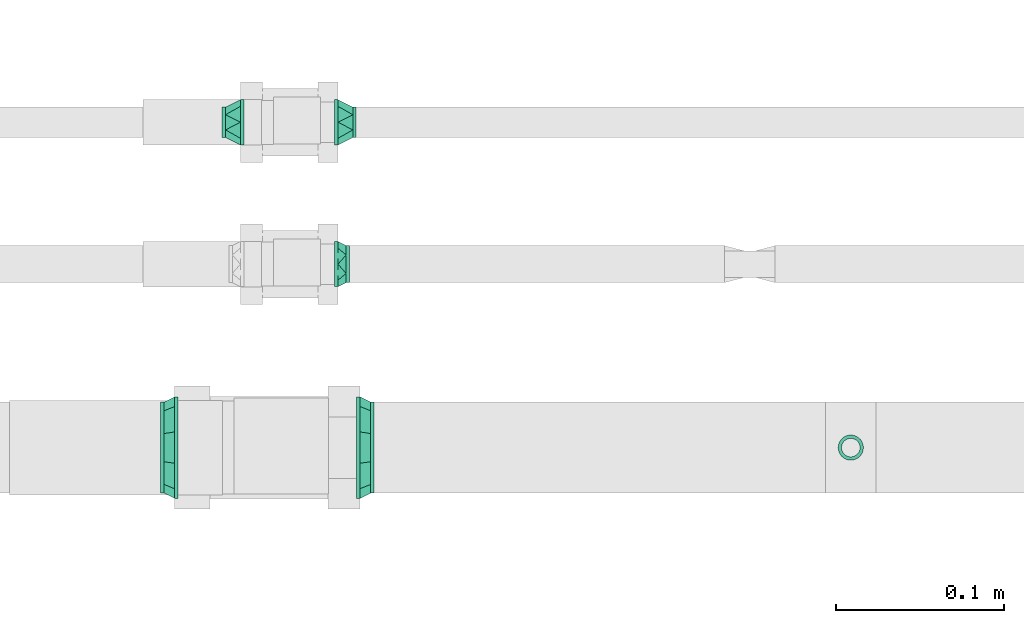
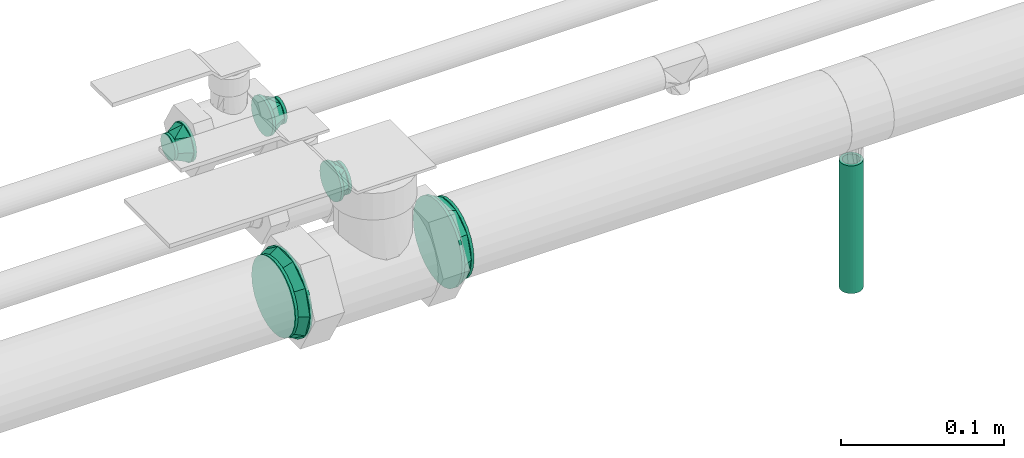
# One storey, part 95 of 156: 5 flow fittings, 1 flow segment.
"""IFC2X3 building model written with IfcOpenShell, lengths in millimetres."""

import ifcopenshell
import ifcopenshell.guid

model = None  # the IFC model being written
_history = None  # IfcOwnerHistory: only IFC2X3 demands one
_inside = {}  # id of a spatial element -> (the spatial element, [elements in it])
_under = {}  # id of a project, library or spatial element -> (it, [spatial elements below it])
_declared = {}  # id of a project -> (the project, [libraries it declares])
_typed = {}  # id of a type object -> (the type object, [elements of that type])
_made_of = {}  # id of a material, layer set ... -> (it, [elements and type objects made of it])


def new_model(schema):
    """Start an empty IFC model of exactly this schema.

    Asked for "IFC4X3", IfcOpenShell would pick the latest addendum, in which some entities
    have other attributes; the version numbers below select the first issue.
    IFC2X3 requires an IfcOwnerHistory on every rooted entity: one is made here for all.
    """
    global model, _history
    if schema == "IFC4X3":
        model = ifcopenshell.file(schema_version=(4, 3, 0, 0))
    else:
        model = ifcopenshell.file(schema=schema)
    _inside.clear()
    _under.clear()
    _declared.clear()
    _typed.clear()
    _made_of.clear()
    _history = None
    if model.schema == "IFC2X3":
        org = make("IfcOrganization", Name="unknown")
        user = make(
            "IfcPersonAndOrganization",
            ThePerson=make("IfcPerson", FamilyName="unknown"),
            TheOrganization=org,
        )
        app = make(
            "IfcApplication",
            ApplicationDeveloper=org,
            Version="unknown",
            ApplicationFullName="unknown",
            ApplicationIdentifier="unknown",
        )
        _history = make(
            "IfcOwnerHistory",
            OwningUser=user,
            OwningApplication=app,
            ChangeAction="ADDED",
            CreationDate=0,
        )
    return model


def make(cls, **values):
    """One entity of the class cls with the attributes given. An attribute that is None is left unset."""
    return model.create_entity(
        cls, **{name: value for name, value in values.items() if value is not None}
    )


def entity(cls, *values):
    """Any entity or typed value of the class cls, its attributes in the order of the schema. None: left unset."""
    e = model.create_entity(cls)
    for i, value in enumerate(values):
        if value is not None:
            e[i] = value
    return e


def rooted(cls, **values):
    """An entity with a GlobalId (a new one), such as an element, a storey or a relation."""
    return make(cls, GlobalId=ifcopenshell.guid.new(), OwnerHistory=_history, **values)


def si_unit(unit_type, name, prefix=None):
    """IfcSIUnit, for example si_unit("LENGTHUNIT", "METRE", prefix="MILLI")."""
    return make("IfcSIUnit", UnitType=unit_type, Prefix=prefix, Name=name)


def converted_unit(unit_type, name, factor, base, dimensions=None, offset=None):
    """IfcConversionBasedUnit, such as the inch: factor (a typed value) times the base unit."""
    return make(
        "IfcConversionBasedUnit"
        if offset is None
        else "IfcConversionBasedUnitWithOffset",
        ConversionOffset=offset,
        Dimensions=None
        if dimensions is None
        else entity("IfcDimensionalExponents", *dimensions),
        UnitType=unit_type,
        Name=name,
        ConversionFactor=make(
            "IfcMeasureWithUnit", ValueComponent=factor, UnitComponent=base
        ),
    )


def derived_unit(unit_type, elements):
    """IfcDerivedUnit: a product of units, each with its exponent."""
    return make(
        "IfcDerivedUnit",
        Elements=[
            make("IfcDerivedUnitElement", Unit=unit, Exponent=power)
            for unit, power in elements
        ],
        UnitType=unit_type,
    )


def assignment(units):
    """IfcUnitAssignment: the units of a project."""
    return None if units is None else make("IfcUnitAssignment", Units=units)


def point(xyz):
    """IfcCartesianPoint."""
    return None if xyz is None else make("IfcCartesianPoint", Coordinates=xyz)


def direction(xyz):
    """IfcDirection."""
    return None if xyz is None else make("IfcDirection", DirectionRatios=xyz)


def frame(location, z_axis=None, x_axis=None):
    """IfcAxis2Placement3D, a coordinate frame: its origin and axes. An axis left out is left unset."""
    return make(
        "IfcAxis2Placement3D",
        Location=point(location),
        Axis=direction(z_axis),
        RefDirection=direction(x_axis),
    )


def frame_2d(location, x_axis=None):
    """IfcAxis2Placement2D, a coordinate frame in the plane: its origin and x axis."""
    return make(
        "IfcAxis2Placement2D", Location=point(location), RefDirection=direction(x_axis)
    )


def origin_with_axes():
    """The frame at (0, 0, 0) with the z axis (0, 0, 1) and the x axis (1, 0, 0) written out."""
    return frame((0.0, 0.0, 0.0), z_axis=(0.0, 0.0, 1.0), x_axis=(1.0, 0.0, 0.0))


def origin_2d_with_axis():
    """The frame at (0, 0) in the plane with the x axis (1, 0) written out."""
    return frame_2d((0.0, 0.0), x_axis=(1.0, 0.0))


def place(relative_to, where):
    """IfcLocalPlacement: puts the frame where relative to a parent placement (None: the world)."""
    return make(
        "IfcLocalPlacement", PlacementRelTo=relative_to, RelativePlacement=where
    )


def context(
    kind, dimensions, precision=None, world=None, true_north=None, identifier=None
):
    """IfcGeometricRepresentationContext, for example the 3D "Model" context."""
    return make(
        "IfcGeometricRepresentationContext",
        ContextIdentifier=identifier,
        ContextType=kind,
        CoordinateSpaceDimension=dimensions,
        Precision=precision,
        WorldCoordinateSystem=world,
        TrueNorth=true_north,
    )


def subcontext(parent, identifier, kind, view, scale=None):
    """IfcGeometricRepresentationSubContext, for example "Body" below "Model"."""
    return make(
        "IfcGeometricRepresentationSubContext",
        ContextIdentifier=identifier,
        ContextType=kind,
        ParentContext=parent,
        TargetScale=scale,
        TargetView=view,
    )


def project(units=None, contexts=None):
    """IfcProject with its units and contexts."""
    return rooted(
        "IfcProject",
        Name="project",
        RepresentationContexts=contexts,
        UnitsInContext=assignment(units),
    )


def spatial(cls, under=None, at=None, **own):
    """A site, building, storey or space (cls), placed at a placement, below another one or the project."""
    s = rooted(cls, ObjectPlacement=at, **own)
    if under is not None:
        _under.setdefault(under.id(), (under, []))[1].append(s)
    return s


def profile(cls, at=None, kind="AREA", **sizes):
    """A parametric profile (cls). Its sizes go by their IFC names, for example OverallWidth=200.0."""
    return make(cls, ProfileType=kind, Position=at, **sizes)


def hollow_circle(**sizes):
    """IfcCircleHollowProfileDef."""
    return profile("IfcCircleHollowProfileDef", **sizes)


def extrude(swept, where, along, depth):
    """IfcExtrudedAreaSolid: the profile swept, set in the frame where, extruded along a direction by depth."""
    return make(
        "IfcExtrudedAreaSolid",
        SweptArea=swept,
        Position=where,
        ExtrudedDirection=direction(along),
        Depth=depth,
    )


def faces_of(points, faces, orient=None, outer=None):
    """IfcFace entities. A face is a list of loops; a loop is a list of indices into points, from 0.

    orient and outer hold one flag for each loop. By default every Orientation is true, the
    first loop of a face is its IfcFaceOuterBound and the others are IfcFaceBound.
    """
    made = []
    for i, loops in enumerate(faces):
        bounds = []
        for j, loop in enumerate(loops):
            is_outer = j == 0 if outer is None else outer[i][j]
            bounds.append(
                make(
                    "IfcFaceOuterBound" if is_outer else "IfcFaceBound",
                    Bound=make("IfcPolyLoop", Polygon=[points[k] for k in loop]),
                    Orientation=True if orient is None else orient[i][j],
                )
            )
        made.append(make("IfcFace", Bounds=bounds))
    return made


def open_shell(faces, orient=None, outer=None):
    """The faces of one IfcOpenShell. surface_model builds it on its shared points."""
    return ("IfcOpenShell", faces, orient, outer)


def surface_model(cls, points, shells):
    """IfcFaceBasedSurfaceModel or IfcShellBasedSurfaceModel (cls): surfaces that need not close."""
    shared = [point(p) for p in points]
    made = [make(c, CfsFaces=faces_of(shared, fs, o, b)) for c, fs, o, b in shells]
    if cls == "IfcFaceBasedSurfaceModel":
        return make(cls, FbsmFaces=made)
    return make(cls, SbsmBoundary=made)


def shape(context_of_items, identifier, shape_type, items):
    """IfcShapeRepresentation: the items that make up one representation, for example the "Body"."""
    return make(
        "IfcShapeRepresentation",
        ContextOfItems=context_of_items,
        RepresentationIdentifier=identifier,
        RepresentationType=shape_type,
        Items=items,
    )


def source(mapping_origin, context_of_items, identifier, shape_type, items):
    """IfcRepresentationMap: a shape defined once, which mapped items show again and again."""
    return make(
        "IfcRepresentationMap",
        MappingOrigin=mapping_origin,
        MappedRepresentation=shape(context_of_items, identifier, shape_type, items),
    )


def transform(
    local_origin,
    x_axis=None,
    y_axis=None,
    z_axis=None,
    scale=None,
    scale2=None,
    scale3=None,
    uniform=True,
):
    """IfcCartesianTransformationOperator3D, or its non-uniform kind. x_axis, y_axis, z_axis: its Axis1, 2, 3."""
    if uniform:
        return make(
            "IfcCartesianTransformationOperator3D",
            Axis1=direction(x_axis),
            Axis2=direction(y_axis),
            LocalOrigin=point(local_origin),
            Scale=scale,
            Axis3=direction(z_axis),
        )
    return make(
        "IfcCartesianTransformationOperator3DnonUniform",
        Axis1=direction(x_axis),
        Axis2=direction(y_axis),
        LocalOrigin=point(local_origin),
        Scale=scale,
        Axis3=direction(z_axis),
        Scale2=scale2,
        Scale3=scale3,
    )


def mapped(mapping_source, mapping_target):
    """IfcMappedItem: shows the shape of a source again, moved by a transform."""
    return make(
        "IfcMappedItem", MappingSource=mapping_source, MappingTarget=mapping_target
    )


def made_of(thing, what):
    """Note that an element or type object is made of a material, layer set ...; save() writes the relation."""
    if what is not None:
        _made_of.setdefault(what.id(), (what, []))[1].append(thing)
    return thing


def type_object(cls, material=None, **own):
    """A type object (cls), such as IfcWallType, which elements share."""
    return made_of(rooted(cls, **own), material)


def element(
    cls,
    number,
    at=None,
    inside=None,
    cuts=None,
    type_object=None,
    material=None,
    context=None,
    identifier="Body",
    shape_type=None,
    held_by="IfcProductDefinitionShape",
    body=None,
    shapes=None,
    **own,
):
    """One element of the class cls, such as IfcWall. Its Tag is "e" and its number.

    at: its placement. inside: the storey or other place that contains it. cuts: it is an
    opening in that element (IfcRelVoidsElement). A single representation is given by context,
    identifier, shape_type and body (its items); several are given by shapes. held_by: the class
    of the entity that holds the representations. save() writes the other relations.
    """
    e = rooted(cls, Tag="e%d" % number, ObjectPlacement=at, **own)
    if body is not None:
        shapes = [shape(context, identifier, shape_type, body)]
    if shapes is not None:
        e.Representation = make(held_by, Representations=shapes)
    if inside is not None:
        _inside.setdefault(inside.id(), (inside, []))[1].append(e)
    if cuts is not None:
        rooted(
            "IfcRelVoidsElement", RelatingBuildingElement=cuts, RelatedOpeningElement=e
        )
    if type_object is not None:
        _typed.setdefault(type_object.id(), (type_object, []))[1].append(e)
    return made_of(e, material)


def aggregate(whole, parts):
    """IfcRelAggregates: a whole, such as a stair, and the parts it consists of."""
    return rooted("IfcRelAggregates", RelatingObject=whole, RelatedObjects=parts)


def save(model, path):
    """Write the relations noted so far, then the file.

    IfcRelAggregates (storeys below a building ...), IfcRelContainedInSpatialStructure (elements
    in a storey), IfcRelDefinesByType, IfcRelAssociatesMaterial and IfcRelDeclares: one each for
    every whole, place, type object, material and project.
    """
    for whole, parts in _under.values():
        aggregate(whole, parts)
    for where, things in _inside.values():
        rooted(
            "IfcRelContainedInSpatialStructure",
            RelatedElements=things,
            RelatingStructure=where,
        )
    for kind, things in _typed.values():
        rooted("IfcRelDefinesByType", RelatedObjects=things, RelatingType=kind)
    for what, things in _made_of.values():
        rooted("IfcRelAssociatesMaterial", RelatedObjects=things, RelatingMaterial=what)
    for by, libraries in _declared.values():
        rooted("IfcRelDeclares", RelatingContext=by, RelatedDefinitions=libraries)
    model.write(path)


model = new_model("IFC2X3")

# Units and contexts
model_context = context("Model", 3, precision=0.01, world=frame((0.0, 4.29681676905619e-09, 0.0)), true_north=direction((4.01073788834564e-13, 1.0)))
plan_context = context("Plan", 3, precision=0.01, world=frame((0.0, 4.29681676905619e-09, 0.0)), true_north=direction((4.01073788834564e-13, 1.0)))
body_context = subcontext(model_context, "Body", "Model", "MODEL_VIEW")
ifc_project = project(units=[converted_unit("PLANEANGLEUNIT", "DEGREE", entity("IfcPositiveLengthMeasure", 0.0174532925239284), si_unit("PLANEANGLEUNIT", "RADIAN"), dimensions=[0, 0, 0, 0, 0, 0, 0]), si_unit("AREAUNIT", "SQUARE_METRE"), si_unit("LENGTHUNIT", "METRE", prefix="MILLI"), si_unit("MASSUNIT", "GRAM", prefix="KILO"), si_unit("POWERUNIT", "WATT"), si_unit("PRESSUREUNIT", "PASCAL", prefix="KILO"), si_unit("FORCEUNIT", "NEWTON", prefix="KILO"), si_unit("ELECTRICVOLTAGEUNIT", "VOLT"), si_unit("ELECTRICCURRENTUNIT", "AMPERE"), si_unit("THERMODYNAMICTEMPERATUREUNIT", "DEGREE_CELSIUS"), si_unit("TIMEUNIT", "SECOND"), si_unit("VOLUMEUNIT", "CUBIC_METRE"), derived_unit("LINEARVELOCITYUNIT", [(si_unit("LENGTHUNIT", "METRE"), 1), (si_unit("TIMEUNIT", "SECOND"), -1)]), derived_unit("VOLUMETRICFLOWRATEUNIT", [(si_unit("VOLUMEUNIT", "CUBIC_METRE"), 1), (si_unit("TIMEUNIT", "SECOND"), -1)]), derived_unit("THERMALTRANSMITTANCEUNIT", [(si_unit("POWERUNIT", "WATT"), 1), (si_unit("THERMODYNAMICTEMPERATUREUNIT", "KELVIN"), -1), (si_unit("AREAUNIT", "SQUARE_METRE"), -1)]), derived_unit("SOUNDPRESSUREUNIT", [(si_unit("PRESSUREUNIT", "PASCAL"), 1)])], contexts=[model_context, plan_context])

# Site, building, storey
site_placement = place(None, frame((0.0, -4.29681676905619e-09, 0.0), z_axis=(0.0, 0.0, 1.0), x_axis=(1.0, 0.0, 0.0)))
site = spatial("IfcSite", under=ifc_project, at=site_placement, CompositionType="ELEMENT")
building_placement = place(site_placement, frame((0.0, 4.29681676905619e-09, 0.0), z_axis=(0.0, 0.0, 1.0), x_axis=(1.0, 0.0, 0.0)))
building = spatial("IfcBuilding", under=site, at=building_placement, Name="mc-building", CompositionType="ELEMENT")
storey_placement = place(building_placement, frame((0.0, 0.0, 205200.0), z_axis=(0.0, 0.0, 1.0), x_axis=(1.0, 0.0, 0.0)))
storey = spatial("IfcBuildingStorey", under=building, at=storey_placement, Name="Nivå D + 1,2 m", CompositionType="ELEMENT", Elevation=205200.0)

# Flow fittings
pipe_fitting_type = type_object("IfcPipeFittingType", Name="magi_pipe_fe_reducer_centric_short_001", PredefinedType="TRANSITION")
shared_shape_1 = source(origin_with_axes(), body_context, "Body", "SurfaceModel", [
    surface_model("IfcShellBasedSurfaceModel", [(-2.0, 9.47523, 9.47523), (-2.0, 11.60474, 6.7), (-2.0, 12.94341, 3.46818), (-2.0, -3.46818, 12.94341), (-2.0, -9.47523, 9.47523), (-2.0, -6.7, 11.60474), (-2.0, -12.94341, 3.46818), (-2.0, -11.60474, 6.7), (-2.0, -12.94341, -3.46818), (-2.0, -9.47523, -9.47523), (-2.0, -11.60474, -6.7), (0.0, 11.60474, -6.7), (0.0, 6.7, -11.60474), (0.0, 9.47523, -9.47523), (0.0, -9.47523, -9.47523), (0.0, -12.94341, -3.46818), (0.0, -11.60474, -6.7), (0.0, 12.94341, 3.46818), (0.0, 11.60474, 6.7), (0.0, 9.47523, 9.47523), (0.0, 0.0, 13.4), (0.0, -9.47523, 9.47523), (0.0, -3.46818, 12.94341), (0.0, -6.7, 11.60474), (-2.0, -13.4, 0.0), (0.0, -6.7, -11.60474), (-2.0, -6.7, -11.60474), (0.0, -3.46818, -12.94341), (-2.0, -3.46818, -12.94341), (0.0, -13.4, 0.0), (0.0, 0.0, -13.4), (-2.0, 0.0, -13.4), (-2.0, 3.46818, -12.94341), (0.0, 3.46818, -12.94341), (-2.0, 6.7, -11.60474), (-2.0, 9.47523, -9.47523), (-2.0, 11.60474, -6.7), (0.0, 12.94341, -3.46818), (-2.0, 12.94341, -3.46818), (0.0, 13.4, 0.0), (-2.0, 13.4, 0.0), (0.0, 6.7, 11.60474), (-2.0, 6.7, 11.60474), (0.0, 3.46818, 12.94341), (-2.0, 3.46818, 12.94341), (-2.0, 0.0, 13.4), (0.0, -11.60474, 6.7), (0.0, -12.94341, 3.46818), (6.8, 2.84701, -10.62518), (6.8, 5.5, -9.52628), (6.8, 7.77817, -7.77817), (6.8, 9.52628, -5.5), (6.8, 10.62518, -2.84701), (6.8, -7.77817, -7.77817), (6.8, 2.84701, 10.62518), (6.8, -2.84701, -10.62518), (6.8, 0.0, -11.0), (6.8, -5.5, -9.52628), (6.8, -10.62518, -2.84701), (6.8, -9.52628, -5.5), (6.8, -11.0, 0.0), (6.8, 11.0, 0.0), (6.8, 10.62518, 2.84701), (6.8, 9.52628, 5.5), (6.8, 7.77817, 7.77817), (6.8, 0.0, 11.0), (6.8, 5.5, 9.52628), (6.8, -2.84701, 10.62518), (6.8, -10.62518, 2.84701), (6.8, -7.77817, 7.77817), (6.8, -9.52628, 5.5), (6.8, -5.5, 9.52628), (4.8, 2.84701, 10.62518), (4.8, -2.84701, 10.62518), (4.8, 0.0, 11.0), (4.8, 7.77817, 7.77817), (4.8, 5.5, 9.52628), (4.8, 9.52628, 5.5), (4.8, 10.62518, 2.84701), (4.8, -11.0, 0.0), (4.8, -7.77817, 7.77817), (4.8, -5.5, 9.52628), (4.8, -10.62518, 2.84701), (4.8, -9.52628, 5.5), (4.8, 10.62518, -2.84701), (4.8, 2.84701, -10.62518), (4.8, 7.77817, -7.77817), (4.8, 9.52628, -5.5), (4.8, 5.5, -9.52628), (4.8, -7.77817, -7.77817), (4.8, -10.62518, -2.84701), (4.8, -9.52628, -5.5), (4.8, -2.84701, -10.62518), (4.8, -5.5, -9.52628), (4.8, 0.0, -11.0), (4.8, 11.0, 0.0)], [open_shell([[[0, 1, 2]], [[3, 4, 5]], [[4, 6, 7]], [[8, 9, 10]], [[11, 12, 13]], [[14, 15, 16]], [[17, 18, 19]], [[17, 19, 20]], [[21, 22, 23]], [[8, 15, 24]], [[10, 16, 8]], [[25, 9, 26]], [[10, 9, 14]], [[27, 26, 28]], [[8, 16, 15]], [[15, 29, 24]], [[27, 25, 26]], [[14, 9, 25]], [[14, 16, 10]], [[30, 27, 28]], [[28, 31, 30]], [[32, 33, 31]], [[34, 12, 32]], [[11, 35, 36]], [[34, 35, 13]], [[37, 36, 38]], [[34, 13, 12]], [[12, 33, 32]], [[39, 37, 38]], [[11, 36, 37]], [[11, 13, 35]], [[40, 39, 38]], [[31, 33, 30]], [[2, 17, 40]], [[1, 18, 2]], [[41, 0, 42]], [[1, 0, 19]], [[43, 42, 44]], [[2, 18, 17]], [[17, 39, 40]], [[43, 41, 42]], [[19, 0, 41]], [[19, 18, 1]], [[20, 43, 44]], [[44, 45, 20]], [[3, 22, 45]], [[5, 23, 3]], [[46, 4, 7]], [[5, 4, 21]], [[47, 7, 6]], [[5, 21, 23]], [[23, 22, 3]], [[29, 47, 6]], [[46, 7, 47]], [[46, 21, 4]], [[24, 29, 6]], [[45, 22, 20]], [[0, 45, 44]], [[0, 44, 42]], [[0, 2, 45]], [[45, 2, 3]], [[4, 3, 9]], [[6, 4, 24]], [[4, 9, 24]], [[9, 3, 2]], [[2, 38, 9]], [[36, 9, 38]], [[36, 34, 9]], [[34, 36, 35]], [[34, 32, 28]], [[24, 9, 8]], [[9, 28, 26]], [[9, 34, 28]], [[31, 28, 32]], [[38, 2, 40]], [[12, 27, 33]], [[37, 14, 11]], [[11, 14, 12]], [[14, 37, 39]], [[27, 14, 25]], [[27, 30, 33]], [[27, 12, 14]], [[39, 15, 14]], [[39, 17, 15]], [[43, 20, 19]], [[43, 19, 41]], [[17, 20, 22]], [[29, 46, 47]], [[46, 29, 21]], [[29, 15, 21]], [[17, 22, 21]], [[21, 15, 17]], [[20, 19, 29]], [[29, 21, 20]], [[14, 29, 30]], [[19, 30, 29]], [[13, 30, 19]], [[19, 39, 13]], [[48, 49, 50]], [[48, 50, 51]], [[48, 52, 53]], [[52, 48, 51]], [[52, 54, 53]], [[48, 55, 56]], [[48, 57, 55]], [[53, 58, 59]], [[57, 48, 53]], [[53, 60, 58]], [[52, 61, 62]], [[62, 63, 64]], [[62, 64, 54]], [[65, 53, 54]], [[54, 64, 66]], [[67, 53, 65]], [[68, 69, 70]], [[69, 68, 60]], [[69, 67, 71]], [[60, 53, 69]], [[67, 69, 53]], [[54, 52, 62]], [[72, 73, 74]], [[75, 72, 76]], [[75, 77, 78]], [[75, 78, 72]], [[79, 72, 78]], [[73, 80, 81]], [[73, 72, 80]], [[80, 82, 83]], [[82, 80, 79]], [[72, 79, 80]], [[78, 84, 79]], [[79, 84, 85]], [[86, 84, 87]], [[86, 88, 85]], [[86, 85, 84]], [[85, 89, 79]], [[90, 89, 91]], [[79, 89, 90]], [[85, 92, 93]], [[93, 89, 85]], [[92, 85, 94]], [[84, 78, 95]], [[90, 58, 79]], [[91, 59, 90]], [[57, 89, 93]], [[91, 89, 53]], [[55, 93, 92]], [[90, 59, 58]], [[58, 60, 79]], [[55, 57, 93]], [[53, 89, 57]], [[53, 59, 91]], [[56, 55, 92]], [[92, 94, 56]], [[85, 48, 94]], [[88, 49, 85]], [[51, 86, 87]], [[88, 86, 50]], [[52, 87, 84]], [[88, 50, 49]], [[49, 48, 85]], [[61, 52, 84]], [[51, 87, 52]], [[51, 50, 86]], [[95, 61, 84]], [[94, 48, 56]], [[78, 62, 95]], [[77, 63, 78]], [[66, 75, 76]], [[77, 75, 64]], [[54, 76, 72]], [[78, 63, 62]], [[62, 61, 95]], [[54, 66, 76]], [[64, 75, 66]], [[64, 63, 77]], [[65, 54, 72]], [[72, 74, 65]], [[73, 67, 74]], [[81, 71, 73]], [[70, 80, 83]], [[81, 80, 69]], [[68, 83, 82]], [[81, 69, 71]], [[71, 67, 73]], [[60, 68, 82]], [[70, 83, 68]], [[70, 69, 80]], [[79, 60, 82]], [[74, 67, 65]], [[76, 81, 95]], [[95, 81, 93]], [[93, 88, 95]], [[93, 81, 79]], [[95, 88, 13]], [[13, 39, 95]], [[88, 30, 13]], [[93, 79, 14]], [[14, 30, 93]], [[29, 14, 79]], [[93, 30, 88]], [[79, 81, 21]], [[21, 29, 79]], [[81, 20, 21]], [[76, 95, 19]], [[19, 20, 76]], [[39, 19, 95]], [[76, 20, 81]]])]),
])
flow_fitting_placement = place(storey_placement, frame((327630.95, 463393.4875, 4112.0), z_axis=(0.0, 0.0, 1.0), x_axis=(1.0, 0.0, 0.0)))
element("IfcFlowFitting", 1, at=flow_fitting_placement, inside=storey, type_object=pipe_fitting_type, Name="magi_pipe_fe_reducer_centric_short_001", context=body_context, shape_type="MappedRepresentation", body=[
    mapped(shared_shape_1, transform((0.0, 0.0, 0.0), scale=1.0)),
])
shared_shape_2 = source(origin_with_axes(), body_context, "Body", "SurfaceModel", [
    surface_model("IfcShellBasedSurfaceModel", [(-2.0, 9.47523, 9.47523), (-2.0, 11.60474, 6.7), (-2.0, 12.94341, 3.46818), (-2.0, -3.46818, 12.94341), (-2.0, -9.47523, 9.47523), (-2.0, -6.7, 11.60474), (-2.0, -12.94341, 3.46818), (-2.0, -11.60474, 6.7), (-2.0, -12.94341, -3.46818), (-2.0, -9.47523, -9.47523), (-2.0, -11.60474, -6.7), (0.0, 11.60474, -6.7), (0.0, 6.7, -11.60474), (0.0, 9.47523, -9.47523), (0.0, -9.47523, -9.47523), (0.0, -12.94341, -3.46818), (0.0, -11.60474, -6.7), (0.0, 12.94341, 3.46818), (0.0, 11.60474, 6.7), (0.0, 9.47523, 9.47523), (0.0, 0.0, 13.4), (0.0, -9.47523, 9.47523), (0.0, -3.46818, 12.94341), (0.0, -6.7, 11.60474), (-2.0, -13.4, 0.0), (0.0, -6.7, -11.60474), (-2.0, -6.7, -11.60474), (0.0, -3.46818, -12.94341), (-2.0, -3.46818, -12.94341), (0.0, -13.4, 0.0), (0.0, 0.0, -13.4), (-2.0, 0.0, -13.4), (-2.0, 3.46818, -12.94341), (0.0, 3.46818, -12.94341), (-2.0, 6.7, -11.60474), (-2.0, 9.47523, -9.47523), (-2.0, 11.60474, -6.7), (0.0, 12.94341, -3.46818), (-2.0, 12.94341, -3.46818), (0.0, 13.4, 0.0), (-2.0, 13.4, 0.0), (0.0, 6.7, 11.60474), (-2.0, 6.7, 11.60474), (0.0, 3.46818, 12.94341), (-2.0, 3.46818, 12.94341), (-2.0, 0.0, 13.4), (0.0, -11.60474, 6.7), (0.0, -12.94341, 3.46818), (10.8, 4.5, -7.79423), (10.8, -6.36396, -6.36396), (10.8, 2.32937, -8.69333), (10.8, 8.69333, -2.32937), (10.8, 6.36396, -6.36396), (10.8, 7.79423, -4.5), (10.8, 7.79423, 4.5), (10.8, -8.69333, -2.32937), (10.8, 0.0, -9.0), (10.8, -4.5, -7.79423), (10.8, -2.32937, -8.69333), (10.8, -7.79423, -4.5), (10.8, 9.0, 0.0), (10.8, 8.69333, 2.32937), (10.8, -9.0, 0.0), (10.8, 4.5, 7.79423), (10.8, 6.36396, 6.36396), (10.8, 2.32937, 8.69333), (10.8, 0.0, 9.0), (10.8, -2.32937, 8.69333), (10.8, -8.69333, 2.32937), (10.8, -6.36396, 6.36396), (10.8, -7.79423, 4.5), (10.8, -4.5, 7.79423), (8.8, 0.0, 9.0), (8.8, 2.32937, 8.69333), (8.8, 4.5, 7.79423), (8.8, 7.79423, 4.5), (8.8, -9.0, 0.0), (8.8, 8.69333, -2.32937), (8.8, 6.36396, 6.36396), (8.8, 9.0, 0.0), (8.8, -2.32937, 8.69333), (8.8, -6.36396, 6.36396), (8.8, -4.5, 7.79423), (8.8, -8.69333, 2.32937), (8.8, -7.79423, 4.5), (8.8, 8.69333, 2.32937), (8.8, 4.5, -7.79423), (8.8, 6.36396, -6.36396), (8.8, 7.79423, -4.5), (8.8, 2.32937, -8.69333), (8.8, -4.5, -7.79423), (8.8, -8.69333, -2.32937), (8.8, -6.36396, -6.36396), (8.8, -7.79423, -4.5), (8.8, 0.0, -9.0), (8.8, -2.32937, -8.69333)], [open_shell([[[0, 1, 2]], [[3, 4, 5]], [[4, 6, 7]], [[8, 9, 10]], [[11, 12, 13]], [[14, 15, 16]], [[17, 18, 19]], [[17, 19, 20]], [[21, 22, 23]], [[8, 15, 24]], [[10, 16, 8]], [[25, 9, 26]], [[10, 9, 14]], [[27, 26, 28]], [[8, 16, 15]], [[15, 29, 24]], [[27, 25, 26]], [[14, 9, 25]], [[14, 16, 10]], [[30, 27, 28]], [[28, 31, 30]], [[32, 33, 31]], [[34, 12, 32]], [[11, 35, 36]], [[34, 35, 13]], [[37, 36, 38]], [[34, 13, 12]], [[12, 33, 32]], [[39, 37, 38]], [[11, 36, 37]], [[11, 13, 35]], [[40, 39, 38]], [[31, 33, 30]], [[2, 17, 40]], [[1, 18, 2]], [[41, 0, 42]], [[1, 0, 19]], [[43, 42, 44]], [[2, 18, 17]], [[17, 39, 40]], [[43, 41, 42]], [[19, 0, 41]], [[19, 18, 1]], [[20, 43, 44]], [[44, 45, 20]], [[3, 22, 45]], [[5, 23, 3]], [[46, 4, 7]], [[5, 4, 21]], [[47, 7, 6]], [[5, 21, 23]], [[23, 22, 3]], [[29, 47, 6]], [[46, 7, 47]], [[46, 21, 4]], [[24, 29, 6]], [[45, 22, 20]], [[48, 49, 50]], [[51, 48, 52]], [[49, 48, 51]], [[51, 52, 53]], [[54, 55, 51]], [[56, 57, 58]], [[56, 50, 57]], [[49, 55, 59]], [[57, 50, 49]], [[51, 55, 49]], [[51, 60, 61]], [[62, 55, 54]], [[63, 54, 64]], [[63, 65, 66]], [[63, 66, 54]], [[67, 54, 66]], [[68, 69, 70]], [[69, 68, 62]], [[69, 67, 71]], [[69, 62, 54]], [[54, 67, 69]], [[54, 51, 61]], [[72, 73, 74]], [[72, 74, 75]], [[76, 72, 77]], [[75, 74, 78]], [[75, 79, 72]], [[80, 81, 82]], [[80, 72, 81]], [[81, 83, 84]], [[83, 81, 76]], [[72, 76, 81]], [[75, 85, 79]], [[77, 86, 76]], [[87, 77, 88]], [[89, 76, 86]], [[86, 77, 87]], [[89, 90, 76]], [[91, 92, 93]], [[76, 92, 91]], [[90, 94, 95]], [[92, 76, 90]], [[94, 90, 89]], [[77, 72, 79]], [[91, 55, 76]], [[93, 59, 91]], [[57, 92, 90]], [[93, 92, 49]], [[58, 90, 95]], [[91, 59, 55]], [[55, 62, 76]], [[58, 57, 90]], [[49, 92, 57]], [[49, 59, 93]], [[56, 58, 95]], [[95, 94, 56]], [[89, 50, 94]], [[86, 48, 89]], [[53, 87, 88]], [[86, 87, 52]], [[51, 88, 77]], [[86, 52, 48]], [[48, 50, 89]], [[60, 51, 77]], [[53, 88, 51]], [[53, 52, 87]], [[79, 60, 77]], [[94, 50, 56]], [[85, 61, 79]], [[75, 54, 85]], [[63, 78, 74]], [[75, 78, 64]], [[65, 74, 73]], [[85, 54, 61]], [[61, 60, 79]], [[65, 63, 74]], [[64, 78, 63]], [[64, 54, 75]], [[66, 65, 73]], [[73, 72, 66]], [[80, 67, 72]], [[82, 71, 80]], [[70, 81, 84]], [[82, 81, 69]], [[68, 84, 83]], [[82, 69, 71]], [[71, 67, 80]], [[62, 68, 83]], [[70, 84, 68]], [[70, 69, 81]], [[76, 62, 83]], [[72, 67, 66]], [[0, 45, 44]], [[0, 44, 42]], [[0, 2, 45]], [[45, 2, 3]], [[4, 3, 9]], [[6, 4, 24]], [[4, 9, 24]], [[9, 3, 2]], [[2, 38, 9]], [[36, 9, 38]], [[36, 34, 9]], [[34, 36, 35]], [[34, 32, 28]], [[24, 9, 8]], [[9, 28, 26]], [[9, 34, 28]], [[31, 28, 32]], [[38, 2, 40]], [[12, 27, 33]], [[37, 14, 11]], [[11, 14, 12]], [[14, 37, 39]], [[27, 14, 25]], [[27, 30, 33]], [[27, 12, 14]], [[39, 15, 14]], [[39, 17, 15]], [[43, 20, 19]], [[43, 19, 41]], [[17, 20, 22]], [[29, 46, 47]], [[46, 29, 21]], [[29, 15, 21]], [[17, 22, 21]], [[21, 15, 17]], [[74, 82, 79]], [[79, 82, 90]], [[90, 86, 79]], [[90, 82, 76]], [[20, 19, 29]], [[29, 21, 20]], [[19, 13, 29]], [[30, 29, 13]], [[14, 29, 30]], [[13, 19, 39]], [[79, 86, 13]], [[13, 39, 79]], [[86, 30, 13]], [[90, 76, 14]], [[90, 14, 30]], [[14, 76, 29]], [[90, 30, 86]], [[76, 82, 21]], [[21, 29, 76]], [[82, 20, 21]], [[74, 79, 19]], [[74, 19, 20]], [[19, 79, 39]], [[74, 20, 82]]])]),
])
for number, where, z_axis, x_axis, name in (
    (2, (327572.95, 463477.7375, 4110.0), (0.0, 0.0, 1.0), (-1.0, 0.0, 0.0), "magi_pipe_fe_reducer_centric_short_001"),
    (3, (327630.95, 463477.7375, 4110.0), (0.0, 0.0, 1.0), (1.0, 0.0, 0.0), "magi_pipe_fe_reducer_centric_short_001"),
):
    element("IfcFlowFitting", number, at=place(storey_placement, frame(where, z_axis=z_axis, x_axis=x_axis)), inside=storey, type_object=pipe_fitting_type, Name=name, context=body_context, shape_type="MappedRepresentation", body=[
        mapped(shared_shape_2, transform((0.0, 0.0, 0.0), scale=1.0)),
    ])
shared_shape_3 = source(origin_with_axes(), body_context, "Body", "SurfaceModel", [
    surface_model("IfcShellBasedSurfaceModel", [(-2.0, 21.35462, 21.35462), (-2.0, 26.15397, 15.1), (-2.0, 29.17096, 7.81634), (-2.0, -21.35462, 21.35462), (-2.0, -29.17096, 7.81634), (-2.0, -26.15397, 15.1), (-2.0, -29.17096, -7.81634), (-2.0, -21.35462, -21.35462), (-2.0, -26.15397, -15.1), (-2.0, -15.1, -26.15397), (-2.0, 0.0, -30.2), (-2.0, -7.81634, -29.17096), (0.0, 0.0, -30.2), (0.0, -15.1, -26.15397), (0.0, -7.81634, -29.17096), (0.0, -21.35462, -21.35462), (0.0, -29.17096, -7.81634), (0.0, -26.15397, -15.1), (0.0, 29.17096, 7.81634), (0.0, 26.15397, 15.1), (0.0, 21.35462, 21.35462), (0.0, -29.17096, 7.81634), (0.0, -21.35462, 21.35462), (0.0, -26.15397, 15.1), (0.0, -30.2, 0.0), (-2.0, -30.2, 0.0), (-2.0, 7.81634, -29.17096), (0.0, 7.81634, -29.17096), (-2.0, 15.1, -26.15397), (0.0, 15.1, -26.15397), (0.0, 26.15397, -15.1), (-2.0, 21.35462, -21.35462), (-2.0, 26.15397, -15.1), (0.0, 21.35462, -21.35462), (0.0, 29.17096, -7.81634), (-2.0, 29.17096, -7.81634), (0.0, 30.2, 0.0), (-2.0, 30.2, 0.0), (0.0, 15.1, 26.15397), (-2.0, 15.1, 26.15397), (0.0, 7.81634, 29.17096), (-2.0, 7.81634, 29.17096), (0.0, 0.0, 30.2), (-2.0, 0.0, 30.2), (-2.0, -7.81634, 29.17096), (0.0, -7.81634, 29.17096), (-2.0, -15.1, 26.15397), (0.0, -15.1, 26.15397), (0.0, 24.43231, 17.75111), (0.0, 9.33231, -28.72191), (0.0, 24.43231, -17.75111), (0.0, -9.33231, -28.72191), (0.0, -24.43231, -17.75111), (0.0, 9.33231, 28.72191), (0.0, -9.33231, 28.72191), (0.0, -24.43231, 17.75111), (8.4, 6.98811, -26.08), (8.4, 13.5, -23.38269), (8.4, 19.09188, -19.09188), (8.4, 26.08, 6.98811), (8.4, 23.38269, -13.5), (8.4, 26.08, -6.98811), (8.4, -26.08, 6.98811), (8.4, -13.5, -23.38269), (8.4, 0.0, -27.0), (8.4, -6.98811, -26.08), (8.4, -23.38269, -13.5), (8.4, -19.09188, -19.09188), (8.4, -26.08, -6.98811), (8.4, 27.0, 0.0), (8.4, 23.38269, 13.5), (8.4, 19.09188, 19.09188), (8.4, 6.98811, 26.08), (8.4, 13.5, 23.38269), (8.4, 0.0, 27.0), (8.4, -19.09188, 19.09188), (8.4, -23.38269, 13.5), (8.4, -27.0, 0.0), (8.4, -6.98811, 26.08), (8.4, -13.5, 23.38269), (6.4, 6.98811, 26.08), (6.4, -19.09188, 19.09188), (6.4, 0.0, 27.0), (6.4, 19.09188, 19.09188), (6.4, 13.5, 23.38269), (6.4, 23.38269, 13.5), (6.4, 26.08, 6.98811), (6.4, -6.98811, 26.08), (6.4, -13.5, 23.38269), (6.4, -26.08, 6.98811), (6.4, -23.38269, 13.5), (6.4, -13.5, -23.38269), (6.4, -26.08, -6.98811), (6.4, -27.0, 0.0), (6.4, 6.98811, -26.08), (6.4, 26.08, -6.98811), (6.4, 23.38269, -13.5), (6.4, 19.09188, -19.09188), (6.4, 13.5, -23.38269), (6.4, -23.38269, -13.5), (6.4, -19.09188, -19.09188), (6.4, 0.0, -27.0), (6.4, -6.98811, -26.08), (6.4, 27.0, 0.0), (6.4, -8.34346, 25.67853), (6.4, -21.84346, 15.8702), (6.4, 8.34346, 25.67853), (6.4, 21.84346, 15.8702), (6.4, -8.34346, -25.67853), (6.4, -21.84346, -15.8702), (6.4, 8.34346, -25.67853), (6.4, 21.84346, -15.8702), (6.4, 15.09346, -20.77436), (0.0, 16.88231, -23.23651), (0.0, 27.31616, -8.87556), (6.4, 24.42173, -7.9351), (0.0, -28.32705, -5.76435), (6.4, -24.42173, -7.9351), (6.4, 0.0, -25.67853), (0.0, 0.0, -28.72191), (0.0, -16.88231, -23.23651), (6.4, -15.09346, -20.77436), (0.0, -26.4541, -11.5287), (6.4, -15.09346, 20.77436), (0.0, -16.88231, 23.23651), (0.0, -27.31616, 8.87556), (6.4, -24.42173, 7.9351), (0.0, 28.32705, 5.76435), (6.4, 24.42173, 7.9351), (6.4, 0.0, 25.67853), (0.0, 0.0, 28.72191), (0.0, 16.88231, 23.23651), (6.4, 15.09346, 20.77436), (0.0, 26.4541, 11.5287)], [open_shell([[[0, 1, 2]], [[3, 4, 5]], [[6, 7, 8]], [[7, 6, 9]], [[9, 10, 11]], [[12, 13, 14]], [[15, 16, 17]], [[16, 15, 13]], [[18, 19, 20]], [[21, 22, 23]], [[24, 16, 21]], [[6, 16, 25]], [[8, 17, 6]], [[13, 7, 9]], [[8, 7, 15]], [[14, 9, 11]], [[6, 17, 16]], [[16, 24, 25]], [[14, 13, 9]], [[15, 7, 13]], [[15, 17, 8]], [[12, 14, 11]], [[11, 10, 12]], [[26, 27, 10]], [[28, 29, 26]], [[30, 31, 32]], [[28, 31, 33]], [[34, 32, 35]], [[28, 33, 29]], [[29, 27, 26]], [[36, 34, 35]], [[30, 32, 34]], [[30, 33, 31]], [[37, 36, 35]], [[10, 27, 12]], [[2, 18, 37]], [[1, 19, 2]], [[38, 0, 39]], [[1, 0, 20]], [[40, 39, 41]], [[2, 19, 18]], [[18, 36, 37]], [[40, 38, 39]], [[20, 0, 38]], [[20, 19, 1]], [[42, 40, 41]], [[41, 43, 42]], [[44, 45, 43]], [[46, 47, 44]], [[23, 3, 5]], [[46, 3, 22]], [[21, 5, 4]], [[46, 22, 47]], [[47, 45, 44]], [[24, 21, 4]], [[23, 5, 21]], [[23, 22, 3]], [[25, 24, 4]], [[43, 45, 42]], [[48, 49, 24]], [[50, 49, 48]], [[24, 51, 52]], [[24, 49, 51]], [[48, 36, 50]], [[46, 44, 43]], [[28, 35, 31]], [[21, 18, 20]], [[53, 48, 54]], [[54, 24, 55]], [[56, 57, 58]], [[59, 56, 58]], [[59, 60, 61]], [[59, 58, 60]], [[62, 63, 56]], [[64, 63, 65]], [[64, 56, 63]], [[63, 66, 67]], [[66, 63, 68]], [[63, 62, 68]], [[69, 59, 61]], [[59, 70, 71]], [[59, 71, 72]], [[59, 72, 62]], [[72, 71, 73]], [[62, 72, 74]], [[62, 75, 76]], [[77, 68, 62]], [[75, 78, 79]], [[75, 62, 74]], [[78, 75, 74]], [[62, 56, 59]], [[80, 81, 82]], [[83, 80, 84]], [[83, 85, 86]], [[80, 83, 81]], [[86, 81, 83]], [[87, 81, 88]], [[87, 82, 81]], [[81, 89, 90]], [[81, 91, 89]], [[89, 92, 93]], [[94, 81, 86]], [[95, 96, 86]], [[96, 97, 86]], [[97, 98, 94]], [[94, 86, 97]], [[81, 94, 91]], [[99, 91, 100]], [[91, 99, 92]], [[91, 101, 102]], [[92, 89, 91]], [[94, 101, 91]], [[86, 103, 95]], [[92, 68, 93]], [[99, 66, 92]], [[63, 100, 91]], [[99, 100, 67]], [[65, 91, 102]], [[92, 66, 68]], [[68, 77, 93]], [[65, 63, 91]], [[67, 100, 63]], [[67, 66, 99]], [[64, 65, 102]], [[102, 101, 64]], [[94, 56, 101]], [[98, 57, 94]], [[60, 97, 96]], [[98, 97, 58]], [[61, 96, 95]], [[98, 58, 57]], [[57, 56, 94]], [[69, 61, 95]], [[60, 96, 61]], [[60, 58, 97]], [[103, 69, 95]], [[101, 56, 64]], [[86, 59, 103]], [[85, 70, 86]], [[73, 83, 84]], [[85, 83, 71]], [[72, 84, 80]], [[86, 70, 59]], [[59, 69, 103]], [[72, 73, 84]], [[71, 83, 73]], [[71, 70, 85]], [[74, 72, 80]], [[80, 82, 74]], [[87, 78, 82]], [[88, 79, 87]], [[76, 81, 90]], [[88, 81, 75]], [[62, 90, 89]], [[88, 75, 79]], [[79, 78, 87]], [[77, 62, 89]], [[76, 90, 62]], [[76, 75, 81]], [[93, 77, 89]], [[82, 78, 74]], [[41, 46, 43]], [[2, 41, 39]], [[0, 2, 39]], [[46, 41, 2]], [[46, 4, 3]], [[46, 37, 4]], [[4, 6, 25]], [[37, 46, 2]], [[28, 37, 35]], [[31, 35, 32]], [[37, 28, 9]], [[10, 28, 26]], [[9, 6, 37]], [[28, 10, 9]], [[37, 6, 4]], [[29, 12, 27]], [[36, 29, 33]], [[34, 36, 33]], [[34, 33, 30]], [[21, 16, 29]], [[12, 29, 13]], [[29, 16, 13]], [[29, 36, 18]], [[21, 20, 40]], [[40, 20, 38]], [[21, 40, 42]], [[21, 47, 22]], [[21, 42, 47]], [[45, 47, 42]], [[21, 29, 18]], [[104, 105, 103]], [[106, 103, 107]], [[103, 106, 104]], [[105, 108, 103]], [[108, 105, 109]], [[103, 110, 111]], [[103, 108, 110]], [[109, 105, 93]], [[24, 54, 48]], [[50, 111, 112]], [[110, 113, 112]], [[113, 110, 49]], [[114, 115, 111]], [[103, 115, 36]], [[113, 50, 112]], [[93, 116, 117]], [[49, 118, 119]], [[119, 118, 108]], [[108, 51, 119]], [[111, 50, 114]], [[36, 115, 114]], [[120, 121, 109]], [[108, 121, 51]], [[122, 52, 109]], [[51, 121, 120]], [[109, 52, 120]], [[116, 93, 24]], [[110, 118, 49]], [[116, 122, 117]], [[122, 109, 117]], [[55, 105, 123]], [[104, 124, 123]], [[124, 104, 54]], [[125, 126, 105]], [[93, 126, 24]], [[124, 55, 123]], [[103, 127, 128]], [[54, 129, 130]], [[130, 129, 106]], [[106, 53, 130]], [[105, 55, 125]], [[24, 126, 125]], [[131, 132, 107]], [[106, 132, 53]], [[133, 48, 107]], [[53, 132, 131]], [[107, 48, 131]], [[127, 103, 36]], [[104, 129, 54]], [[127, 133, 128]], [[133, 107, 128]]])]),
])
for number, where, z_axis, x_axis, name in (
    (4, (327533.95, 463284.5375, 4128.0), (0.0, 0.0, 1.0), (-1.0, 0.0, 0.0), "magi_pipe_fe_reducer_centric_short_001"),
    (5, (327643.95, 463284.5375, 4128.0), (0.0, 0.0, 1.0), (1.0, 0.0, 0.0), "magi_pipe_fe_reducer_centric_short_001"),
):
    element("IfcFlowFitting", number, at=place(storey_placement, frame(where, z_axis=z_axis, x_axis=x_axis)), inside=storey, type_object=pipe_fitting_type, Name=name, context=body_context, shape_type="MappedRepresentation", body=[
        mapped(shared_shape_3, transform((0.0, 0.0, 0.0), scale=1.0)),
    ])

# Flow segment
pipe_segment_type = type_object("IfcPipeSegmentType", Name="Kobberrør", PredefinedType="RIGIDSEGMENT")
shared_shape_4 = source(origin_with_axes(), body_context, "Body", "SweptSolid", [
    extrude(hollow_circle(Radius=7.5, WallThickness=2.0, at=origin_2d_with_axis()), frame((0.0, 0.0, 0.0), z_axis=(1.0, 0.0, 0.0), x_axis=(0.0, 1.0, 0.0)), (0.0, 0.0, 1.0), 95.7),
])
flow_segment_placement = place(storey_placement, frame((327935.47035, 463284.5375, 4087.5), z_axis=(0.0, -1.0, 0.0), x_axis=(0.0, 0.0, -1.0)))
element("IfcFlowSegment", 6, at=flow_segment_placement, inside=storey, type_object=pipe_segment_type, Name="Kobberrør", context=body_context, shape_type="MappedRepresentation", body=[
    mapped(shared_shape_4, transform((0.0, 0.0, 0.0), scale=1.0)),
])

save(model, "model.ifc")
